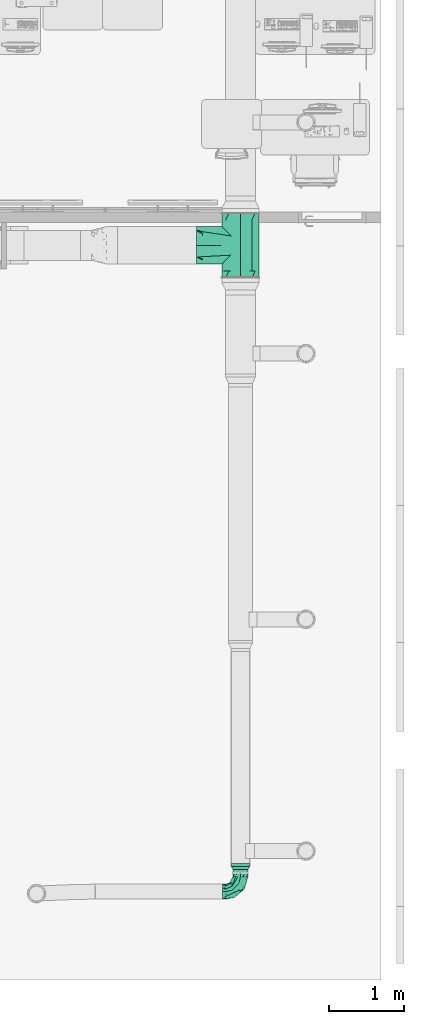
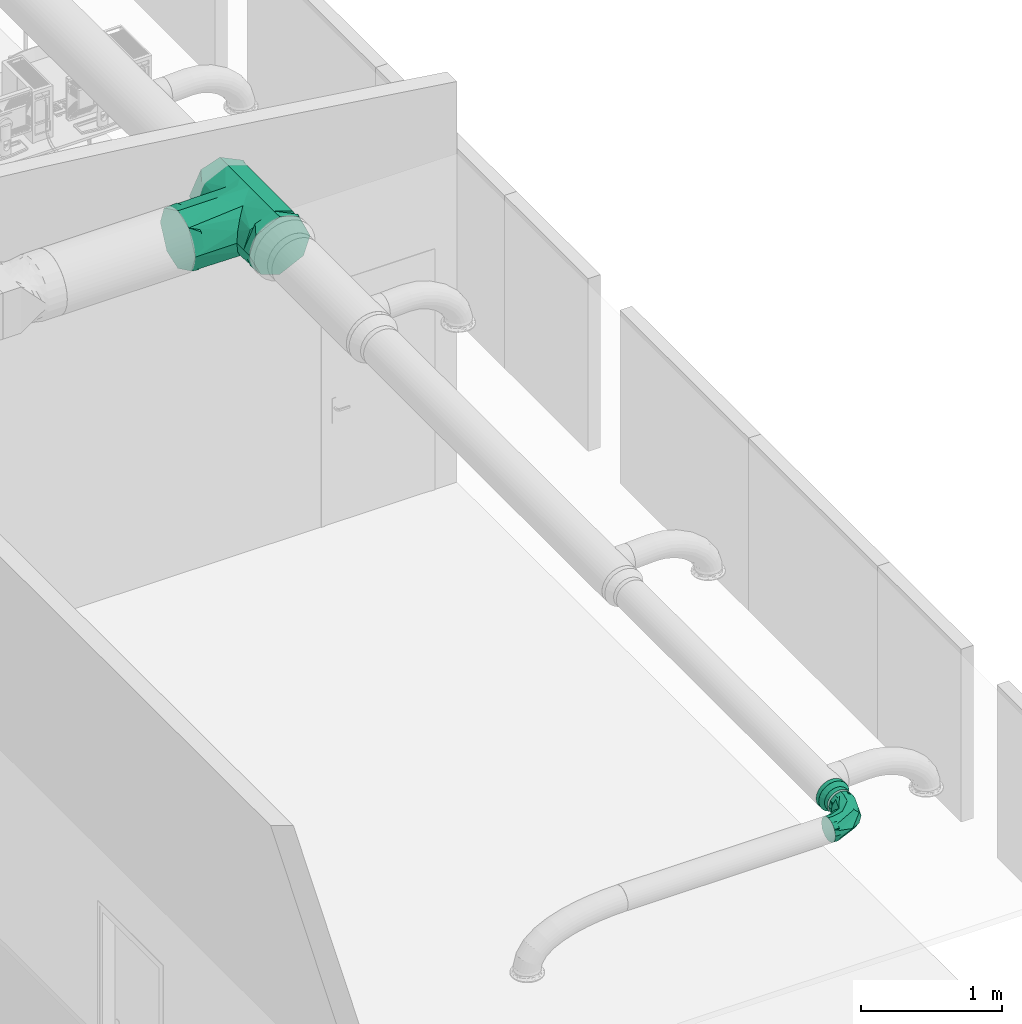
# One storey, part 17 of 31: 3 flow fittings.
"""IFC2X3 building model written with IfcOpenShell, lengths in millimetres."""

from ifc_helpers import new_model, entity, si_unit, converted_unit, derived_unit, direction, frame, origin, place, context, subcontext, project, spatial, faceted_brep, source, transform, mapped, material, material_list, type_object, type_shapes, element, save


model = new_model("IFC2X3")

# Units and contexts
model_context = context("Model", 3, precision=0.01, world=origin(), true_north=direction((6.123031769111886e-17, 1.0)))
body_context = subcontext(model_context, "Body", "Model", "MODEL_VIEW")
ifc_project = project(units=[si_unit("LENGTHUNIT", "METRE", prefix="MILLI"), si_unit("AREAUNIT", "SQUARE_METRE"), si_unit("VOLUMEUNIT", "CUBIC_METRE"), converted_unit("PLANEANGLEUNIT", "DEGREE", entity("IfcRatioMeasure", 0.017453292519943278), si_unit("PLANEANGLEUNIT", "RADIAN"), dimensions=[0, 0, 0, 0, 0, 0, 0]), si_unit("MASSUNIT", "GRAM", prefix="KILO"), derived_unit("MASSDENSITYUNIT", [(si_unit("MASSUNIT", "GRAM", prefix="KILO"), 1), (si_unit("LENGTHUNIT", "METRE"), -3)]), derived_unit("MOMENTOFINERTIAUNIT", [(si_unit("LENGTHUNIT", "METRE"), 4)]), si_unit("TIMEUNIT", "SECOND"), si_unit("FREQUENCYUNIT", "HERTZ"), si_unit("THERMODYNAMICTEMPERATUREUNIT", "DEGREE_CELSIUS"), derived_unit("THERMALTRANSMITTANCEUNIT", [(si_unit("MASSUNIT", "GRAM", prefix="KILO"), 1), (si_unit("THERMODYNAMICTEMPERATUREUNIT", "KELVIN"), -1), (si_unit("TIMEUNIT", "SECOND"), -3)]), derived_unit("VOLUMETRICFLOWRATEUNIT", [(si_unit("LENGTHUNIT", "METRE"), 3), (si_unit("TIMEUNIT", "SECOND"), -1)]), derived_unit("MASSFLOWRATEUNIT", [(si_unit("MASSUNIT", "GRAM", prefix="KILO"), 1), (si_unit("TIMEUNIT", "SECOND"), -1)]), derived_unit("ROTATIONALFREQUENCYUNIT", [(si_unit("TIMEUNIT", "SECOND"), -1)]), si_unit("ELECTRICCURRENTUNIT", "AMPERE"), si_unit("ELECTRICVOLTAGEUNIT", "VOLT"), si_unit("POWERUNIT", "WATT"), si_unit("FORCEUNIT", "NEWTON", prefix="KILO"), si_unit("ILLUMINANCEUNIT", "LUX"), si_unit("LUMINOUSFLUXUNIT", "LUMEN"), si_unit("LUMINOUSINTENSITYUNIT", "CANDELA"), derived_unit("USERDEFINED", [(si_unit("MASSUNIT", "GRAM", prefix="KILO"), -1), (si_unit("LENGTHUNIT", "METRE"), -2), (si_unit("TIMEUNIT", "SECOND"), 3), (si_unit("LUMINOUSFLUXUNIT", "LUMEN"), 1)]), derived_unit("SOUNDPOWERUNIT", [(si_unit("MASSUNIT", "GRAM", prefix="KILO"), 1), (si_unit("LENGTHUNIT", "METRE"), 2), (si_unit("TIMEUNIT", "SECOND"), -3)]), derived_unit("SOUNDPRESSUREUNIT", [(si_unit("MASSUNIT", "GRAM", prefix="KILO"), 1), (si_unit("LENGTHUNIT", "METRE"), -1), (si_unit("TIMEUNIT", "SECOND"), -2)]), derived_unit("LINEARVELOCITYUNIT", [(si_unit("LENGTHUNIT", "METRE"), 1), (si_unit("TIMEUNIT", "SECOND"), -1)]), si_unit("PRESSUREUNIT", "PASCAL"), derived_unit("USERDEFINED", [(si_unit("LENGTHUNIT", "METRE"), -2), (si_unit("MASSUNIT", "GRAM", prefix="KILO"), 1), (si_unit("TIMEUNIT", "SECOND"), -2)]), derived_unit("LINEARFORCEUNIT", [(si_unit("MASSUNIT", "GRAM", prefix="KILO"), 1), (si_unit("LENGTHUNIT", "METRE"), 1), (si_unit("TIMEUNIT", "SECOND"), -2), (si_unit("LENGTHUNIT", "METRE"), -1)]), derived_unit("PLANARFORCEUNIT", [(si_unit("MASSUNIT", "GRAM", prefix="KILO"), 1), (si_unit("LENGTHUNIT", "METRE"), 1), (si_unit("TIMEUNIT", "SECOND"), -2), (si_unit("LENGTHUNIT", "METRE"), -2)])], contexts=[model_context])

# Site, building, storey
site_placement = place(None, origin())
site = spatial("IfcSite", under=ifc_project, at=site_placement, Name="Default", CompositionType="ELEMENT")
building_placement = place(site_placement, origin())
building = spatial("IfcBuilding", under=site, at=building_placement, CompositionType="ELEMENT")
storey_placement = place(building_placement, frame((0.0, 0.0, 3880.0)))
storey = spatial("IfcBuildingStorey", under=building, at=storey_placement, Name="Niveau 1", CompositionType="ELEMENT", Elevation=3880.0)

# Flow fittings
ifc_material = material(Name="<Unnamed>")
ifc_material_list_1 = material_list([ifc_material, ifc_material, ifc_material])
ifc_material_list_2 = material_list([ifc_material, ifc_material, ifc_material])
duct_fitting_type_1 = type_object("IfcDuctFittingType", Name="Circul - Std - Reduction conique - ALDES - STANDARD - (Ba) (1):Standard", PredefinedType="NOTDEFINED", material=ifc_material_list_2)
shared_shape_1 = source(origin(), body_context, "Body", "Brep", [
    faceted_brep([(38.0, 96.59258262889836, 25.881904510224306), (38.0, 100.0, 0.0), (38.0, 96.59258262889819, -25.881904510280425), (38.0, 86.6025403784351, -50.0), (38.0, 70.71067811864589, -70.71067811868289), (38.0, 50.0, -86.60254037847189), (38.0, 25.881904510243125, -96.59258262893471), (38.0, 0.0, -100.0), (38.0, -25.881904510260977, -96.59258262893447), (38.0, -50.0, -86.6025403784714), (38.0, -70.7106781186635, -70.71067811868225), (38.0, -86.60254037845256, -50.0), (38.0, -96.5925826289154, -25.881904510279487), (38.0, -100.0, 0.0), (38.0, -96.59258262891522, 25.88190451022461), (38.0, -86.60254037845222, 50.0), (38.0, -70.71067811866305, 70.71067811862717), (38.0, -50.0, 86.60254037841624), (38.0, -25.881904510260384, 96.59258262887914), (38.0, 0.0, 100.0), (38.0, 25.881904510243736, 96.59258262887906), (38.0, 50.0, 86.60254037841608), (38.0, 70.71067811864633, 70.71067811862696), (38.0, 86.60254037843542, 50.0), (78.0, 25.881904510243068, -96.59258262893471), (78.0, 50.0, -86.60254037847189), (78.0, 70.71067811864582, -70.71067811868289), (78.0, 86.60254037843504, -50.0), (78.0, 96.59258262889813, -25.881904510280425), (78.0, 100.0, 0.0), (78.0, 96.5925826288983, 25.881904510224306), (78.0, 86.60254037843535, 50.0), (78.0, 70.71067811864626, 70.71067811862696), (78.0, 50.0, 86.60254037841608), (78.0, 25.88190451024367, 96.59258262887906), (78.0, 0.0, 100.0), (78.0, -25.88190451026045, 96.59258262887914), (78.0, -50.0, 86.60254037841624), (78.0, -70.71067811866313, 70.71067811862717), (78.0, -86.60254037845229, 50.0), (78.0, -96.5925826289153, 25.88190451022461), (78.0, -100.0, 0.0), (78.0, -96.59258262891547, -25.881904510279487), (78.0, -86.60254037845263, -50.0), (78.0, -70.71067811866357, -70.71067811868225), (78.0, -50.0, -86.6025403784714), (78.0, -25.881904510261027, -96.59258262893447), (78.0, 0.0, -100.0)], [[[0, 1, 2, 3, 4, 5, 6, 7, 8, 9, 10, 11, 12, 13, 14, 15, 16, 17, 18, 19, 20, 21, 22, 23]], [[24, 25, 26, 27, 28, 29, 30, 31, 32, 33, 34, 35, 36, 37, 38, 39, 40, 41, 42, 43, 44, 45, 46, 47]], [[12, 42, 41, 13]], [[11, 43, 42, 12]], [[45, 44, 10, 9]], [[11, 10, 44, 43]], [[46, 45, 9, 8]], [[47, 46, 8, 7]], [[6, 24, 47, 7]], [[5, 25, 24, 6]], [[27, 26, 4, 3]], [[5, 4, 26, 25]], [[28, 27, 3, 2]], [[29, 28, 2, 1]], [[0, 30, 29, 1]], [[23, 31, 30, 0]], [[33, 32, 22, 21]], [[23, 22, 32, 31]], [[34, 33, 21, 20]], [[35, 34, 20, 19]], [[36, 35, 19, 18]], [[37, 36, 18, 17]], [[39, 15, 14, 40]], [[40, 14, 13, 41]], [[17, 16, 38, 37]], [[16, 15, 39, 38]]]),
    faceted_brep([(0.0, 32.35238063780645, -120.74072828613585), (0.0, 62.499999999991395, -108.25317547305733), (0.0, 88.38834764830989, -88.3883476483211), (0.0, 108.25317547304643, -62.50000000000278), (0.0, 120.74072828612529, -32.35238063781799), (0.0, 125.0, 0.0), (0.0, 120.7407282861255, 32.35238063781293), (0.0, 108.25317547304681, 62.499999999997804), (0.0, 88.38834764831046, 88.38834764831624), (0.0, 62.49999999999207, 108.25317547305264), (0.0, 32.35238063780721, 120.74072828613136), (0.0, 0.0, 125.0), (0.0, -32.35238063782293, 120.74072828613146), (0.0, -62.50000000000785, 108.25317547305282), (0.0, -88.3883476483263, 88.3883476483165), (0.0, -108.25317547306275, 62.499999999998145), (0.0, -120.74072828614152, 32.35238063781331), (0.0, -125.0, 0.0), (0.0, -120.74072828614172, -32.352380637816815), (0.0, -108.25317547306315, -62.50000000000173), (0.0, -88.38834764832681, -88.38834764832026), (0.0, -62.50000000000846, -108.25317547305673), (0.0, -32.35238063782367, -120.74072828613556), (0.0, 0.0, -125.0), (-38.0, 32.35238063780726, 120.74072828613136), (-38.0, 62.49999999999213, 108.25317547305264), (-38.0, 88.38834764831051, 88.38834764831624), (-38.0, 108.25317547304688, 62.499999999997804), (-38.0, 120.74072828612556, 32.35238063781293), (-38.0, 125.0, 0.0), (-38.0, 120.74072828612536, -32.35238063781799), (-38.0, 108.2531754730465, -62.50000000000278), (-38.0, 88.38834764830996, -88.3883476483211), (-38.0, 62.49999999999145, -108.25317547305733), (-38.0, 32.35238063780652, -120.74072828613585), (-38.0, 0.0, -125.0), (-38.0, -32.35238063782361, -120.74072828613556), (-38.0, -62.50000000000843, -108.25317547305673), (-38.0, -88.38834764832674, -88.38834764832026), (-38.0, -108.2531754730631, -62.50000000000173), (-38.0, -120.74072828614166, -32.352380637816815), (-38.0, -125.0, 0.0), (-38.0, -120.74072828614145, 32.35238063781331), (-38.0, -108.25317547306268, 62.499999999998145), (-38.0, -88.38834764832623, 88.3883476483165), (-38.0, -62.50000000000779, 108.25317547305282), (-38.0, -32.3523806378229, 120.74072828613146), (-38.0, 0.0, 125.0)], [[[0, 1, 2, 3, 4, 5, 6, 7, 8, 9, 10, 11, 12, 13, 14, 15, 16, 17, 18, 19, 20, 21, 22, 23]], [[24, 25, 26, 27, 28, 29, 30, 31, 32, 33, 34, 35, 36, 37, 38, 39, 40, 41, 42, 43, 44, 45, 46, 47]], [[40, 18, 17, 41]], [[39, 19, 18, 40]], [[21, 20, 38, 37]], [[39, 38, 20, 19]], [[22, 21, 37, 36]], [[23, 22, 36, 35]], [[34, 0, 23, 35]], [[33, 1, 0, 34]], [[3, 2, 32, 31]], [[33, 32, 2, 1]], [[4, 3, 31, 30]], [[5, 4, 30, 29]], [[28, 6, 5, 29]], [[27, 7, 6, 28]], [[9, 8, 26, 25]], [[27, 26, 8, 7]], [[10, 9, 25, 24]], [[11, 10, 24, 47]], [[12, 11, 47, 46]], [[45, 13, 12, 46]], [[15, 43, 42, 16]], [[16, 42, 41, 17]], [[45, 44, 14, 13]], [[44, 43, 15, 14]]]),
    faceted_brep([(38.0, -30.90169943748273, -95.10565162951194), (38.0, 0.0, -100.0), (38.0, 30.901699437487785, -95.10565162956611), (38.0, 58.77852522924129, -80.90169943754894), (38.0, 80.90169943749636, -58.778525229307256), (38.0, 95.10565162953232, -30.90169943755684), (38.0, 100.0, 0.0), (38.0, 95.10565162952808, 30.901699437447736), (38.0, 80.90169943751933, 58.77852522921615), (38.0, 58.7785252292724, 80.90169943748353), (38.0, 30.9016994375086, 95.10565162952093), (38.0, 0.0, 100.0), (38.0, -30.90169943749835, 95.1056516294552), (38.0, -58.77852522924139, 80.90169943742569), (38.0, -80.90169943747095, 58.77852522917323), (38.0, -95.10565162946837, 30.90169943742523), (38.0, -100.0, 0.0), (38.0, -95.10565162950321, -30.901699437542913), (38.0, -80.90169943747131, -58.77852522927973), (38.0, -58.77852522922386, -80.90169943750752), (0.0, -125.0, 0.0), (0.0, -118.8820645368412, 38.62712429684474), (0.0, -101.12712429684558, 73.4731565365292), (0.0, -73.4731565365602, 101.12712429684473), (0.0, -38.62712429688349, 118.88206453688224), (0.0, 0.0, 125.0), (0.0, 38.62712429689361, 118.88206453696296), (0.0, 73.47315653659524, 101.12712429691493), (0.0, 101.12712429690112, 73.47315653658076), (0.0, 118.88206453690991, 38.62712429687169), (0.0, 125.0, 0.0), (0.0, 118.882064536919, -38.62712429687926), (0.0, 101.12712429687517, -73.47315653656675), (0.0, 73.47315653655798, -101.12712429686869), (0.0, 38.62712429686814, -118.88206453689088), (0.0, 0.0, -125.0), (0.0, -38.627124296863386, -118.88206453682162), (0.0, -73.47315653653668, -101.12712429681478), (0.0, -101.12712429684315, -73.4731565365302), (0.0, -118.882064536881, -38.62712429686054)], [[[0, 1, 2, 3, 4, 5, 6, 7, 8, 9, 10, 11, 12, 13, 14, 15, 16, 17, 18, 19]], [[20, 21, 22, 23, 24, 25, 26, 27, 28, 29, 30, 31, 32, 33, 34, 35, 36, 37, 38, 39]], [[26, 25, 11, 10]], [[26, 10, 9, 27]], [[9, 8, 28, 27]], [[7, 6, 30, 29]], [[8, 7, 29, 28]], [[21, 20, 16, 15]], [[21, 15, 14, 22]], [[14, 13, 23, 22]], [[12, 11, 25, 24]], [[13, 12, 24, 23]], [[36, 35, 1, 0]], [[36, 0, 19, 37]], [[19, 18, 38, 37]], [[17, 16, 20, 39]], [[18, 17, 39, 38]], [[31, 30, 6, 5]], [[31, 5, 4, 32]], [[4, 3, 33, 32]], [[2, 1, 35, 34]], [[3, 2, 34, 33]]]),
])
type_shapes(duct_fitting_type_1, [shared_shape_1])
flow_fitting_1_placement = place(storey_placement, frame((-2195.0, -22873.552532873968, 3150.0), z_axis=(0.0, 0.0, 1.0), x_axis=(0.0, -1.0, 0.0)))
element("IfcFlowFitting", 1, at=flow_fitting_1_placement, inside=storey, type_object=duct_fitting_type_1, material=ifc_material_list_1, Name="Circul - Std - Reduction conique - ALDES - STANDARD - (Ba) (1):Standard", ObjectType="Circul - Std - Reduction conique - ALDES - STANDARD - (Ba) (1):Standard", context=body_context, shape_type="MappedRepresentation", body=[
    mapped(shared_shape_1, transform((0.0, 0.0, 0.0), scale=1.0)),
])
ifc_material_list_3 = material_list([ifc_material, ifc_material, ifc_material])
ifc_material_list_4 = material_list([ifc_material, ifc_material, ifc_material])
duct_fitting_type_2 = type_object("IfcDuctFittingType", Name="Circul - Std - Coude - ALDES - STANDARD - (Ba) (1):Standard", PredefinedType="NOTDEFINED", material=ifc_material_list_4)
shared_shape_2 = source(origin(), body_context, "Body", "Brep", [
    faceted_brep([(-240.0, 50.0, -86.60254037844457), (-240.0, 0.0, -100.0), (-240.0, -50.0, -86.60254037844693), (-240.0, -86.60254037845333, -50.0), (-240.0, -100.0, 0.0), (-240.0, -86.60254037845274, 50.0), (-240.0, -50.0, 86.6025403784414), (-240.0, 0.0, 100.0), (-240.0, 50.0, 86.60254037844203), (-240.0, 86.60254037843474, 50.0), (-240.0, 100.0, 0.0), (-240.0, 86.60254037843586, -50.0), (-200.0, 100.0, 0.0), (-200.0, 86.60254037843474, 50.0), (-200.0, 50.0, 86.60254037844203), (-200.0, 0.0, 100.0), (-200.0, -50.0, 86.6025403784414), (-200.0, -86.60254037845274, 50.0), (-200.0, -100.0, 0.0), (-200.0, -86.60254037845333, -50.0), (-200.0, -50.0, -86.60254037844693), (-200.0, 0.0, -100.0), (-200.0, 50.0, -86.60254037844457), (-200.0, 86.60254037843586, -50.0)], [[[0, 1, 2, 3, 4, 5, 6, 7, 8, 9, 10, 11]], [[12, 13, 14, 15, 16, 17, 18, 19, 20, 21, 22, 23]], [[15, 14, 8, 7]], [[14, 13, 9, 8]], [[13, 12, 10, 9]], [[12, 23, 11, 10]], [[23, 22, 0, 11]], [[22, 21, 1, 0]], [[21, 20, 2, 1]], [[20, 19, 3, 2]], [[19, 18, 4, 3]], [[18, 17, 5, 4]], [[17, 16, 6, 5]], [[16, 15, 7, 6]]]),
    faceted_brep([(50.0, 240.0, -86.6025403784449), (0.0, 240.0, -100.0), (-50.0, 240.0, -86.60254037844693), (-86.6025403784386, 240.0, -50.0), (-100.0, 240.0, 0.0), (-86.602540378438, 240.0, 50.0), (-50.0, 240.0, 86.6025403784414), (0.0, 240.0, 100.0), (50.0, 240.0, 86.60254037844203), (86.6025403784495, 240.0, 50.0), (100.0, 240.0, 0.0), (86.60254037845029, 240.0, -50.0), (100.0, 200.0, 0.0), (86.6025403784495, 200.0, 50.0), (50.0, 200.0, 86.60254037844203), (0.0, 200.0, 100.0), (-50.0, 200.0, 86.6025403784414), (-86.602540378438, 200.0, 50.0), (-100.0, 200.0, 0.0), (-86.6025403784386, 200.0, -50.0), (-50.0, 200.0, -86.60254037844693), (0.0, 200.0, -100.0), (50.0, 200.0, -86.6025403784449), (86.60254037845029, 200.0, -50.0)], [[[0, 1, 2, 3, 4, 5, 6, 7, 8, 9, 10, 11]], [[12, 13, 14, 15, 16, 17, 18, 19, 20, 21, 22, 23]], [[15, 14, 8, 7]], [[14, 13, 9, 8]], [[13, 12, 10, 9]], [[12, 23, 11, 10]], [[23, 22, 0, 11]], [[22, 21, 1, 0]], [[21, 20, 2, 1]], [[20, 19, 3, 2]], [[19, 18, 4, 3]], [[18, 17, 5, 4]], [[17, 16, 6, 5]], [[16, 15, 7, 6]]]),
    faceted_brep([(-240.0, -100.0, 0.0), (-240.0, -86.6025403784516, 50.0), (-240.0, -50.0, 86.60254037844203), (-240.0, 0.0, 100.0), (-240.0, 50.0, 86.6025403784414), (-240.0, 86.60254037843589, 50.0), (-240.0, 100.0, 0.0), (-240.0, 86.60254037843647, -50.0), (-240.0, 50.0, -86.60254037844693), (-240.0, 0.0, -100.0), (-240.0, -50.0, -86.60254037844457), (-240.0, -86.60254037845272, -50.0), (-200.0, -34.20205089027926, 93.96924877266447), (-200.0, 0.0, 100.0), (-200.0, -64.2788205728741, 76.6043942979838), (-200.0, -93.969308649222, 34.201886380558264), (-200.0, -100.0, 0.0), (-200.0, -93.96930864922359, -34.201886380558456), (-200.0, -76.6045068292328, -64.2786864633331), (-200.0, -34.20205089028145, -93.96924877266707), (-200.0, 0.0, -100.0), (-200.0, 34.20188638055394, -93.96930864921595), (-200.0, 64.2786864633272, -76.60450682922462), (-200.0, 93.96924877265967, -34.202050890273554), (-200.0, 100.0, 0.0), (-200.0, 93.96930864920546, 34.20188638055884), (-200.0, 76.60450682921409, 64.27868646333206), (-200.0, 34.20205089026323, 93.96924877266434), (-100.0, 240.0, 0.0), (-86.60254037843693, 240.0, 50.0), (-50.0, 240.0, 86.60254037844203), (0.0, 240.0, 100.0), (50.0, 240.0, 86.6025403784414), (86.60254037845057, 240.0, 50.0), (100.0, 240.0, 0.0), (86.60254037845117, 240.0, -50.0), (50.0, 240.0, -86.60254037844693), (0.0, 240.0, -100.0), (-50.0, 240.0, -86.6025403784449), (-86.60254037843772, 240.0, -50.0), (-34.2020508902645, 200.0, 93.9692487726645), (0.0, 200.0, 100.0), (-64.27882057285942, 200.0, 76.6043942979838), (-93.96930864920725, 200.0, 34.20188638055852), (-100.0, 200.0, 0.0), (-93.96930864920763, 200.0, -34.201886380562), (-76.60450682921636, 200.0, -64.27868646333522), (-34.20205089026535, 200.0, -93.96924877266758), (0.0, 200.0, -100.0), (34.20188638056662, 200.0, -93.96930864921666), (64.27868646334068, 200.0, -76.60450682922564), (93.96924877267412, 200.0, -34.20205089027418), (100.0, 200.0, 0.0), (93.96930864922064, 200.0, 34.20188638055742), (76.60450682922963, 200.0, 64.278686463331), (34.20205089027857, 200.0, 93.96924877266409), (-113.22325217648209, 19.80622641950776, 100.0), (-110.7340924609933, 73.84632258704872, 89.07046385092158), (-116.88121985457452, 116.8812069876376, 56.58286615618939), (-141.22147477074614, 119.09830056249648, 0.0), (-19.80622641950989, 113.22325217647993, 100.0), (-116.88116039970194, 116.88126900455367, -56.58286351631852), (-73.84631982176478, 110.73409199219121, -89.07046514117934), (-113.2232521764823, 19.8062264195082, -100.0), (-19.806226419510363, 113.22325217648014, -100.0), (-19.16250341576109, 19.162711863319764, -83.02260049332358), (-85.19497029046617, -77.16385975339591, 0.0), (20.800430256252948, 14.603255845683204, -46.911539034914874), (49.44088369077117, 33.328930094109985, 0.0), (-19.162505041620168, 19.162505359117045, 83.02250322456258), (20.112997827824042, 13.762186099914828, 46.88060161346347)], [[[0, 1, 2, 3, 4, 5, 6, 7, 8, 9, 10, 11]], [[3, 2, 12]], [[12, 13, 3]], [[2, 14, 12]], [[1, 0, 15]], [[1, 15, 14]], [[15, 0, 16]], [[1, 14, 2]], [[0, 11, 17]], [[17, 16, 0]], [[11, 18, 17]], [[10, 9, 19]], [[10, 19, 18]], [[19, 9, 20]], [[10, 18, 11]], [[9, 8, 21]], [[21, 20, 9]], [[8, 22, 21]], [[7, 6, 23]], [[7, 23, 22]], [[23, 6, 24]], [[7, 22, 8]], [[6, 5, 25]], [[25, 24, 6]], [[5, 26, 25]], [[4, 3, 27]], [[4, 27, 26]], [[27, 3, 13]], [[4, 26, 5]], [[28, 29, 30, 31, 32, 33, 34, 35, 36, 37, 38, 39]], [[31, 30, 40]], [[40, 41, 31]], [[30, 42, 40]], [[29, 28, 43]], [[29, 43, 42]], [[43, 28, 44]], [[29, 42, 30]], [[28, 39, 45]], [[45, 44, 28]], [[39, 46, 45]], [[38, 37, 47]], [[47, 46, 38]], [[48, 47, 37]], [[38, 46, 39]], [[37, 36, 49]], [[49, 48, 37]], [[36, 50, 49]], [[35, 34, 51]], [[35, 51, 50]], [[51, 34, 52]], [[35, 50, 36]], [[34, 33, 53]], [[53, 52, 34]], [[33, 54, 53]], [[32, 31, 55]], [[32, 55, 54]], [[55, 31, 41]], [[32, 54, 33]], [[13, 56, 27]], [[57, 27, 56]], [[26, 27, 57]], [[25, 26, 58]], [[59, 24, 25]], [[56, 60, 57]], [[58, 26, 57]], [[60, 41, 40]], [[40, 42, 57]], [[44, 59, 43]], [[42, 43, 58]], [[59, 25, 58]], [[59, 58, 43]], [[57, 60, 40]], [[57, 42, 58]], [[22, 23, 61]], [[23, 59, 61]], [[61, 62, 22]], [[20, 21, 63]], [[21, 22, 62]], [[23, 24, 59]], [[59, 44, 45]], [[46, 47, 62]], [[46, 61, 45]], [[47, 64, 62]], [[62, 61, 46]], [[47, 48, 64]], [[62, 63, 21]], [[64, 63, 62]], [[59, 45, 61]], [[19, 20, 63]], [[63, 65, 19]], [[16, 17, 66]], [[67, 66, 17]], [[67, 18, 65]], [[18, 19, 65]], [[63, 64, 65]], [[64, 48, 49]], [[50, 65, 49]], [[65, 50, 67]], [[68, 67, 51]], [[51, 52, 68]], [[18, 67, 17]], [[67, 50, 51]], [[64, 49, 65]], [[66, 67, 68]], [[16, 66, 15]], [[54, 55, 69]], [[70, 68, 53]], [[14, 70, 69]], [[12, 69, 56]], [[56, 13, 12]], [[12, 14, 69]], [[70, 66, 68]], [[66, 70, 15]], [[68, 52, 53]], [[70, 14, 15]], [[53, 54, 70]], [[41, 60, 55]], [[60, 56, 69]], [[69, 55, 60]], [[70, 54, 69]]]),
])
type_shapes(duct_fitting_type_2, [shared_shape_2])
flow_fitting_2_placement = place(storey_placement, frame((-2195.0, -23210.0, 3150.0)))
element("IfcFlowFitting", 2, at=flow_fitting_2_placement, inside=storey, type_object=duct_fitting_type_2, material=ifc_material_list_3, Name="Circul - Std - Coude - ALDES - STANDARD - (Ba) (1):Standard", ObjectType="Circul - Std - Coude - ALDES - STANDARD - (Ba) (1):Standard", context=body_context, shape_type="MappedRepresentation", body=[
    mapped(shared_shape_2, transform((0.0, 0.0, 0.0), scale=1.0)),
])
ifc_material_list_5 = material_list([ifc_material, ifc_material, ifc_material, ifc_material])
ifc_material_list_6 = material_list([ifc_material, ifc_material, ifc_material, ifc_material])
duct_fitting_type_3 = type_object("IfcDuctFittingType", Name="Circul - Std - Té - ALDES - STANDARD - (Ba) (1):Standard", PredefinedType="NOTDEFINED", material=ifc_material_list_6)
shared_shape_3 = source(origin(), body_context, "Body", "Brep", [
    faceted_brep([(0.0, 0.0, 250.0), (67.09370004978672, -67.09370004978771, 240.8286432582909), (138.02175183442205, 0.0, 250.0), (346.0, 0.0, 250.0), (131.4669808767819, -131.46698087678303, 212.64155976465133), (346.0, -195.4578706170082, 155.87245046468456), (189.1270708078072, -189.1270708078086, 163.4960277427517), (232.73237758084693, -232.7323775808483, 91.29972850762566), (250.0, -250.0, 0.0), (346.0, -222.72893530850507, 77.9362252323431), (346.0, -250.0, 0.0), (-346.0, -250.0, 0.0), (-250.0, -250.0, 0.0), (-346.0, -222.72893530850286, 77.93622523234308), (232.73237758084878, -232.73237758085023, -91.299728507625), (346.0, -202.93622523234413, -97.72893530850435), (189.12707080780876, -189.12707080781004, -163.4960277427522), (346.0, -155.87245046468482, -195.45787061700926), (67.09370004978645, -67.09370004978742, -240.8286432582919), (0.0, 0.0, -250.0), (138.0217507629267, 0.0, -250.0), (346.0, 0.0, -250.0), (131.46698087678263, -131.46698087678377, -212.6415597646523), (346.0, 250.0, 0.0), (346.0, 155.87245046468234, 195.45787061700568), (346.0, 195.45787061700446, -155.87245046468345), (-125.54387539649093, -125.5438753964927, 216.19143218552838), (-63.935601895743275, -63.93560189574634, 241.68624042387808), (-138.02176016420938, 0.0, 250.0), (-346.0, 0.0, 250.0), (-346.0, -195.457870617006, 155.87245046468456), (-234.2647580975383, -234.26475809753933, 87.29274376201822), (-194.04145037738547, -194.04145037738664, 157.63221604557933), (-234.26475809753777, -234.26475809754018, -87.29274376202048), (-346.0, -202.93622523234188, -97.72893530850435), (-194.0414503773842, -194.04145037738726, -157.63221604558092), (-346.0, -155.87245046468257, -195.45787061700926), (-125.54387539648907, -125.54387539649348, -216.19143218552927), (-138.02175111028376, 0.0, -250.0), (-63.935601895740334, -63.935601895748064, -241.6862404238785), (-346.0, 0.0, -250.0), (-346.0, 195.4578706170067, -155.87245046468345), (-346.0, 250.0, 0.0), (-346.0, 155.87245046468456, 195.45787061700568), (-195.45787061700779, -590.0, 155.8724504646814), (-250.0, -590.0, 0.0), (-155.87245046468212, -590.0, -195.45787061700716), (0.0, -590.0, -250.0), (195.45787061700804, -590.0, -155.87245046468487), (250.0, -590.0, 0.0), (155.87245046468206, -590.0, 195.45787061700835), (0.0, -590.0, 250.0), (0.0, -276.04342477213, 250.0), (0.0, -276.0434955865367, -250.0)], [[[0, 1, 2]], [[3, 4, 5]], [[3, 2, 4]], [[6, 7, 5]], [[8, 9, 7]], [[7, 9, 5]], [[9, 8, 10]], [[11, 12, 13]], [[4, 2, 1]], [[6, 5, 4]], [[10, 14, 15]], [[16, 15, 14]], [[10, 8, 14]], [[16, 17, 15]], [[18, 19, 20]], [[20, 21, 22]], [[17, 22, 21]], [[22, 17, 16]], [[22, 18, 20]], [[23, 24, 3, 5, 9, 10, 15, 17, 21, 25]], [[26, 27, 28]], [[26, 29, 30]], [[28, 29, 26]], [[31, 30, 13]], [[31, 32, 30]], [[31, 13, 12]], [[27, 0, 28]], [[30, 32, 26]], [[12, 11, 33]], [[33, 11, 34]], [[35, 33, 34]], [[34, 36, 35]], [[37, 38, 39]], [[36, 40, 37]], [[37, 40, 38]], [[19, 39, 38]], [[36, 37, 35]], [[41, 25, 21, 20, 19, 38, 40]], [[41, 42, 23, 25]], [[23, 42, 43, 24]], [[43, 29, 28, 0, 2, 3, 24]], [[44, 45, 46, 47, 48, 49, 50, 51]], [[4, 1, 52]], [[52, 50, 4]], [[51, 50, 52]], [[50, 49, 7]], [[1, 0, 52]], [[7, 6, 50]], [[8, 7, 49]], [[50, 6, 4]], [[49, 48, 14]], [[22, 53, 18]], [[14, 8, 49]], [[48, 16, 14]], [[48, 22, 16]], [[48, 47, 53]], [[48, 53, 22]], [[19, 18, 53]], [[37, 39, 53]], [[53, 46, 37]], [[47, 46, 53]], [[46, 45, 33]], [[39, 19, 53]], [[33, 35, 46]], [[12, 33, 45]], [[46, 35, 37]], [[45, 44, 31]], [[26, 52, 27]], [[31, 12, 45]], [[44, 32, 31]], [[44, 26, 32]], [[44, 51, 52]], [[44, 52, 26]], [[0, 27, 52]], [[43, 42, 41, 40, 36, 34, 11, 13, 30, 29]]]),
    faceted_brep([(250.0, -590.0, 0.0), (155.8724504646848, -590.0, 195.4578706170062), (0.0, -590.0, 250.0), (-195.4578706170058, -590.0, 155.87245046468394), (-250.0, -590.0, 0.0), (-155.8724504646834, -590.0, -195.45787061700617), (0.0, -590.0, -250.0), (195.457870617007, -590.0, -155.87245046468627), (250.0, -510.0, 0.0), (155.8724504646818, -510.0, -195.4578706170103), (0.0, -510.0, -250.0), (-195.45787061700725, -510.0, -155.87245046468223), (-250.0, -510.0, 0.0), (-155.8724504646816, -510.0, 195.45787061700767), (0.0, -510.0, 250.0), (195.45787061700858, -510.0, 155.8724504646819)], [[[0, 1, 2, 3, 4, 5, 6, 7]], [[8, 9, 10, 11, 12, 13, 14, 15]], [[14, 13, 2]], [[2, 13, 3]], [[3, 12, 4]], [[12, 3, 13]], [[12, 11, 4]], [[4, 11, 5]], [[5, 10, 6]], [[10, 5, 11]], [[10, 9, 6]], [[6, 9, 7]], [[7, 8, 0]], [[8, 7, 9]], [[8, 15, 0]], [[0, 15, 1]], [[1, 14, 2]], [[14, 1, 15]]]),
    faceted_brep([(346.0, -250.0, 0.0), (346.0, -155.87245046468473, 195.4578706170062), (346.0, 0.0, 250.0), (346.0, 195.45787061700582, 155.87245046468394), (346.0, 250.0, 0.0), (346.0, 155.87245046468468, -195.45787061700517), (346.0, 0.0, -250.0), (346.0, -195.45787061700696, -155.87245046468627), (426.0, -250.0, 0.0), (426.0, -155.87245046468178, -195.4578706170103), (426.0, 0.0, -250.0), (426.0, 195.45787061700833, -155.87245046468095), (426.0, 250.0, 0.0), (426.0, 155.87245046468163, 195.45787061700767), (426.0, 0.0, 250.0), (426.0, -195.45787061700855, 155.8724504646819)], [[[0, 1, 2, 3, 4, 5, 6, 7]], [[8, 9, 10, 11, 12, 13, 14, 15]], [[14, 13, 2]], [[2, 13, 3]], [[3, 12, 4]], [[12, 3, 13]], [[12, 11, 4]], [[4, 11, 5]], [[5, 10, 6]], [[10, 5, 11]], [[10, 9, 6]], [[6, 9, 7]], [[7, 8, 0]], [[8, 7, 9]], [[8, 15, 0]], [[0, 15, 1]], [[1, 14, 2]], [[14, 1, 15]]]),
    faceted_brep([(-426.0, -250.0, 0.0), (-426.0, -155.87245046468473, 195.4578706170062), (-426.0, 0.0, 250.0), (-426.0, 195.45787061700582, 155.87245046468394), (-426.0, 250.0, 0.0), (-426.0, 155.87245046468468, -195.45787061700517), (-426.0, 0.0, -250.0), (-426.0, -195.45787061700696, -155.87245046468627), (-346.0, -250.0, 0.0), (-346.0, -155.87245046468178, -195.4578706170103), (-346.0, 0.0, -250.0), (-346.0, 195.45787061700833, -155.87245046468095), (-346.0, 250.0, 0.0), (-346.0, 155.87245046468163, 195.45787061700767), (-346.0, 0.0, 250.0), (-346.0, -195.45787061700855, 155.8724504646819)], [[[0, 1, 2, 3, 4, 5, 6, 7]], [[8, 9, 10, 11, 12, 13, 14, 15]], [[14, 13, 2]], [[2, 13, 3]], [[3, 12, 4]], [[12, 3, 13]], [[12, 11, 4]], [[4, 11, 5]], [[5, 10, 6]], [[10, 5, 11]], [[10, 9, 6]], [[6, 9, 7]], [[7, 8, 0]], [[8, 7, 9]], [[8, 15, 0]], [[0, 15, 1]], [[1, 14, 2]], [[14, 1, 15]]]),
])
type_shapes(duct_fitting_type_3, [shared_shape_3])
flow_fitting_3_placement = place(storey_placement, frame((-2195.0, -14573.552532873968, 3150.0), z_axis=(0.0, 0.0, 1.0), x_axis=(0.0, -1.0, 0.0)))
element("IfcFlowFitting", 3, at=flow_fitting_3_placement, inside=storey, type_object=duct_fitting_type_3, material=ifc_material_list_5, Name="Circul - Std - Té - ALDES - STANDARD - (Ba) (1):Standard", ObjectType="Circul - Std - Té - ALDES - STANDARD - (Ba) (1):Standard", context=body_context, shape_type="MappedRepresentation", body=[
    mapped(shared_shape_3, transform((0.0, 0.0, 0.0), scale=1.0)),
])

save(model, "model.ifc")
